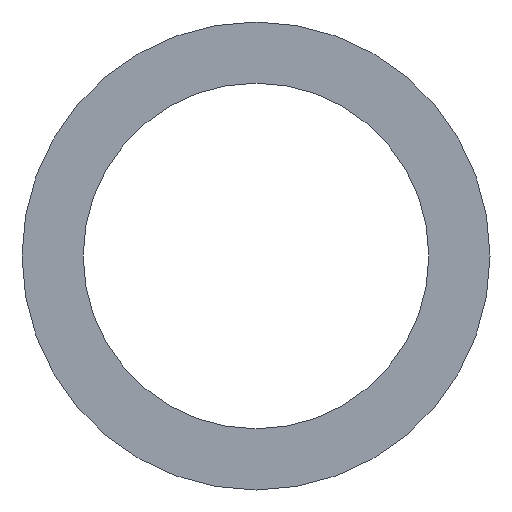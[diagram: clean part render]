
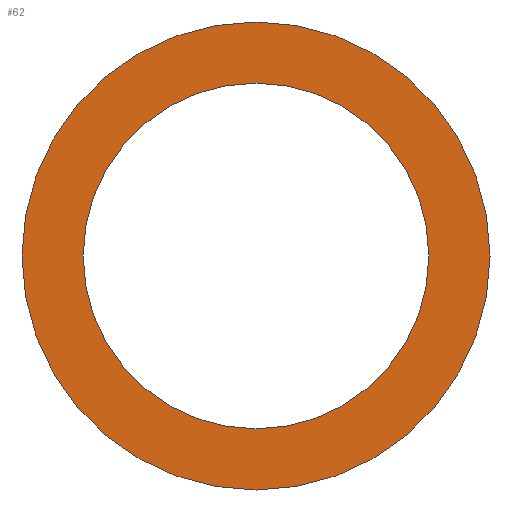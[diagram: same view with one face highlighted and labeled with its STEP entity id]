
A CAD part, front view. The second image highlights one B-rep face of the part: STEP entity #62.
In plain terms, the highlighted planar face has unit normal (0, -1, 0).
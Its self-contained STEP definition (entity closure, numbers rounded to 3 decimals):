
#20=PLANE('',#83);
#26=ORIENTED_EDGE('',*,*,#30,.T.);
#27=ORIENTED_EDGE('',*,*,#32,.F.);
#30=EDGE_CURVE('',#34,#34,#38,.T.);
#32=EDGE_CURVE('',#36,#36,#40,.T.);
#34=VERTEX_POINT('',#106);
#36=VERTEX_POINT('',#111);
#38=CIRCLE('',#78,80.5);
#40=CIRCLE('',#81,109.);
#46=EDGE_LOOP('',(#26));
#47=EDGE_LOOP('',(#27));
#54=FACE_BOUND('',#46,.T.);
#55=FACE_BOUND('',#47,.T.);
#62=ADVANCED_FACE('',(#54,#55),#20,.F.);
#78=AXIS2_PLACEMENT_3D('',#105,#89,#90);
#81=AXIS2_PLACEMENT_3D('',#110,#95,#96);
#83=AXIS2_PLACEMENT_3D('',#114,#99,#100);
#89=DIRECTION('',(0.,1.,0.));
#90=DIRECTION('',(1.,0.,0.));
#95=DIRECTION('',(0.,1.,0.));
#96=DIRECTION('',(1.,0.,0.));
#99=DIRECTION('',(0.,1.,0.));
#100=DIRECTION('',(0.,0.,1.));
#105=CARTESIAN_POINT('',(0.,-1.5,0.));
#106=CARTESIAN_POINT('',(80.5,-1.5,0.));
#110=CARTESIAN_POINT('',(0.,-1.5,0.));
#111=CARTESIAN_POINT('',(109.,-1.5,0.));
#114=CARTESIAN_POINT('',(0.,-1.5,0.));
